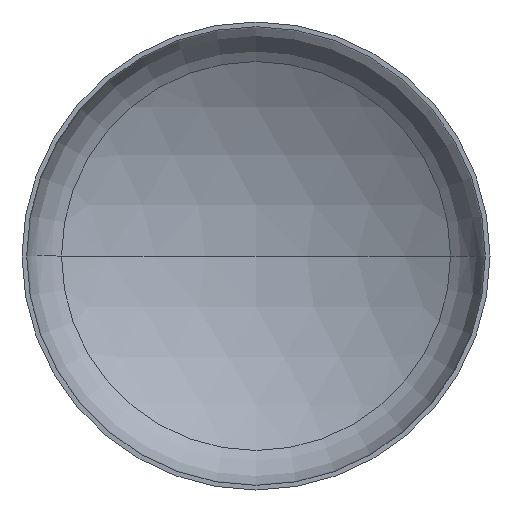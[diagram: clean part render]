
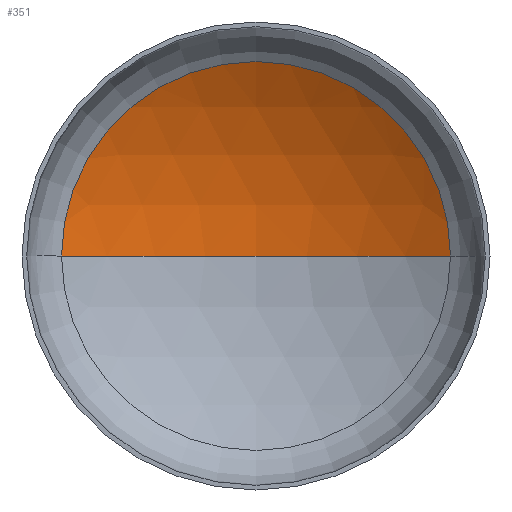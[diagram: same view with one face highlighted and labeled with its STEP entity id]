
A CAD part, front view. The second image highlights one B-rep face of the part: STEP entity #351.
In plain terms, the highlighted spherical face has radius 800 mm.
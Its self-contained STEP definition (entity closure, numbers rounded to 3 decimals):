
#2 = AXIS2_PLACEMENT_3D ( 'NONE', #307, #390, #153 ) ;
#3 = AXIS2_PLACEMENT_3D ( 'NONE', #342, #187, #347 ) ;
#11 = AXIS2_PLACEMENT_3D ( 'NONE', #309, #317, #19 ) ;
#16 = ORIENTED_EDGE ( 'NONE', *, *, #373, .T. ) ;
#19 = DIRECTION ( 'NONE',  ( 1., 0., 0. ) ) ;
#62 = VERTEX_POINT ( 'NONE', #256 ) ;
#67 = ORIENTED_EDGE ( 'NONE', *, *, #368, .T. ) ;
#78 = AXIS2_PLACEMENT_3D ( 'NONE', #270, #120, #293 ) ;
#80 = VERTEX_POINT ( 'NONE', #138 ) ;
#83 = ORIENTED_EDGE ( 'NONE', *, *, #338, .F. ) ;
#91 = EDGE_LOOP ( 'NONE', ( #83, #67, #16 ) ) ;
#120 = DIRECTION ( 'NONE',  ( 0., -1., 0. ) ) ;
#121 = VERTEX_POINT ( 'NONE', #198 ) ;
#138 = CARTESIAN_POINT ( 'NONE',  ( 415.504, 162.454, 0. ) ) ;
#153 = DIRECTION ( 'NONE',  ( -1., 0., 0. ) ) ;
#166 = FACE_OUTER_BOUND ( 'NONE', #91, .T. ) ;
#187 = DIRECTION ( 'NONE',  ( 0., 0., -1. ) ) ;
#198 = CARTESIAN_POINT ( 'NONE',  ( 0., 278.819, 0. ) ) ;
#226 = CIRCLE ( 'NONE', #11, 800. ) ;
#256 = CARTESIAN_POINT ( 'NONE',  ( -415.504, 162.454, 0. ) ) ;
#270 = CARTESIAN_POINT ( 'NONE',  ( 0., 162.454, 0. ) ) ;
#274 = CIRCLE ( 'NONE', #3, 800. ) ;
#293 = DIRECTION ( 'NONE',  ( 1., 0., 0. ) ) ;
#307 = CARTESIAN_POINT ( 'NONE',  ( 0., -521.181, 0. ) ) ;
#309 = CARTESIAN_POINT ( 'NONE',  ( 0., -521.181, 0. ) ) ;
#317 = DIRECTION ( 'NONE',  ( 0., 0., 1. ) ) ;
#338 = EDGE_CURVE ( 'NONE', #121, #62, #226, .T. ) ;
#341 = SPHERICAL_SURFACE ( 'NONE', #2, 800. ) ;
#342 = CARTESIAN_POINT ( 'NONE',  ( 0., -521.181, 0. ) ) ;
#347 = DIRECTION ( 'NONE',  ( -1., 0., 0. ) ) ;
#351 = ADVANCED_FACE ( 'NONE', ( #166 ), #341, .F. ) ;
#368 = EDGE_CURVE ( 'NONE', #121, #80, #274, .T. ) ;
#373 = EDGE_CURVE ( 'NONE', #80, #62, #409, .T. ) ;
#390 = DIRECTION ( 'NONE',  ( 0., 0., -1. ) ) ;
#409 = CIRCLE ( 'NONE', #78, 415.504 ) ;
